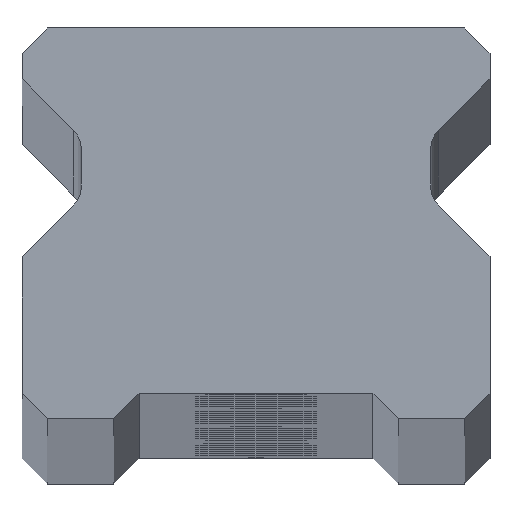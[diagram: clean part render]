
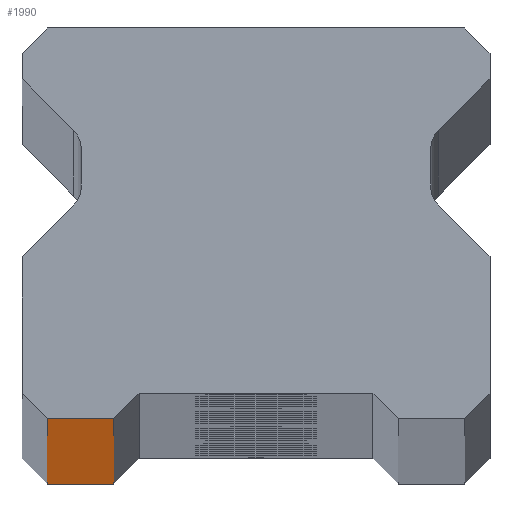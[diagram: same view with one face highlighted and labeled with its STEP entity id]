
A CAD part, top view. The second image highlights one B-rep face of the part: STEP entity #1990.
In plain terms, the highlighted planar face has unit normal (0, -1, 0).
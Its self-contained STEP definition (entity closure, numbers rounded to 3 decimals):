
#57 = VECTOR ( 'NONE', #6379, 1000. ) ;
#130 = VERTEX_POINT ( 'NONE', #5283 ) ;
#546 = LINE ( 'NONE', #3012, #4385 ) ;
#591 = VECTOR ( 'NONE', #4567, 1000. ) ;
#686 = DIRECTION ( 'NONE',  ( 0., 1., 0. ) ) ;
#1558 = CARTESIAN_POINT ( 'NONE',  ( -10.25, 0., 920. ) ) ;
#1637 = LINE ( 'NONE', #3796, #57 ) ;
#1756 = ORIENTED_EDGE ( 'NONE', *, *, #2887, .T. ) ;
#1990 = ADVANCED_FACE ( 'NONE', ( #5284 ), #2722, .F. ) ;
#2472 = VERTEX_POINT ( 'NONE', #1558 ) ;
#2532 = AXIS2_PLACEMENT_3D ( 'NONE', #3602, #686, #3222 ) ;
#2722 = PLANE ( 'NONE',  #2532 ) ;
#2873 = LINE ( 'NONE', #3995, #4289 ) ;
#2887 = EDGE_CURVE ( 'NONE', #2472, #3921, #546, .T. ) ;
#3012 = CARTESIAN_POINT ( 'NONE',  ( -10.25, 0., 920. ) ) ;
#3097 = CARTESIAN_POINT ( 'NONE',  ( -7., 0., -920. ) ) ;
#3222 = DIRECTION ( 'NONE',  ( -1., 0., 0. ) ) ;
#3602 = CARTESIAN_POINT ( 'NONE',  ( 11.5, 0., 920. ) ) ;
#3796 = CARTESIAN_POINT ( 'NONE',  ( -7., 0., -920. ) ) ;
#3914 = VERTEX_POINT ( 'NONE', #3097 ) ;
#3921 = VERTEX_POINT ( 'NONE', #4766 ) ;
#3979 = ORIENTED_EDGE ( 'NONE', *, *, #4623, .T. ) ;
#3995 = CARTESIAN_POINT ( 'NONE',  ( 11.5, 0., -920. ) ) ;
#4012 = ORIENTED_EDGE ( 'NONE', *, *, #5364, .T. ) ;
#4289 = VECTOR ( 'NONE', #4979, 1000. ) ;
#4385 = VECTOR ( 'NONE', #6562, 1000. ) ;
#4567 = DIRECTION ( 'NONE',  ( 1., 0., 0. ) ) ;
#4623 = EDGE_CURVE ( 'NONE', #3921, #3914, #2873, .T. ) ;
#4682 = LINE ( 'NONE', #5581, #591 ) ;
#4766 = CARTESIAN_POINT ( 'NONE',  ( -10.25, 0., -920. ) ) ;
#4979 = DIRECTION ( 'NONE',  ( 1., 0., 0. ) ) ;
#5006 = ORIENTED_EDGE ( 'NONE', *, *, #5586, .F. ) ;
#5283 = CARTESIAN_POINT ( 'NONE',  ( -7., 0., 920. ) ) ;
#5284 = FACE_OUTER_BOUND ( 'NONE', #5582, .T. ) ;
#5364 = EDGE_CURVE ( 'NONE', #3914, #130, #1637, .T. ) ;
#5581 = CARTESIAN_POINT ( 'NONE',  ( 11.5, 0., 920. ) ) ;
#5582 = EDGE_LOOP ( 'NONE', ( #3979, #4012, #5006, #1756 ) ) ;
#5586 = EDGE_CURVE ( 'NONE', #2472, #130, #4682, .T. ) ;
#6379 = DIRECTION ( 'NONE',  ( 0., 0., 1. ) ) ;
#6562 = DIRECTION ( 'NONE',  ( 0., 0., -1. ) ) ;
